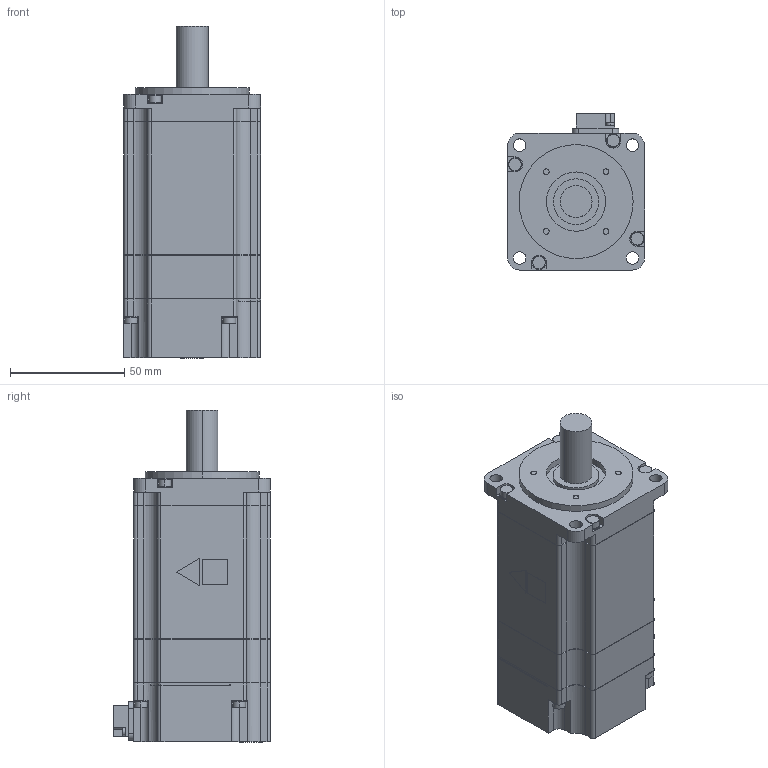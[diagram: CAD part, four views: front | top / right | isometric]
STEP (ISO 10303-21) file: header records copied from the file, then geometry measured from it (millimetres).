
FILE_DESCRIPTION (( 'STEP AP203' ), '1' );
FILE_NAME ('sgm7a_06a6a21.STEP', '2016-11-12T04:44:32', ( '匠エンジニアリング山之内' ), ( 'TAKUMI-Engniaring' ), 'SwSTEP 2.0', 'SolidWorks 2006303', '' );
FILE_SCHEMA (( 'CONFIG_CONTROL_DESIGN' ));
Length unit declared in the file: millimetre
Products named in the file (1): sgm7a_06a6a21
Bounding box: 60.1 x 68.8 x 145.6 mm (x, y, z)
Volume: 376565 mm3; surface area: 38739.2 mm2
Topology: 1 solids, 1 shells, 415 faces, 1090 edges, 724 vertices
Faces by surface type: plane 230, cylinder 185
Entity records: 12983 total; most frequent: DIRECTION 2300, CARTESIAN_POINT 2244, ORIENTED_EDGE 2180, EDGE_CURVE 1090, AXIS2_PLACEMENT_3D 796, VERTEX_POINT 724, VECTOR 708, LINE 708
